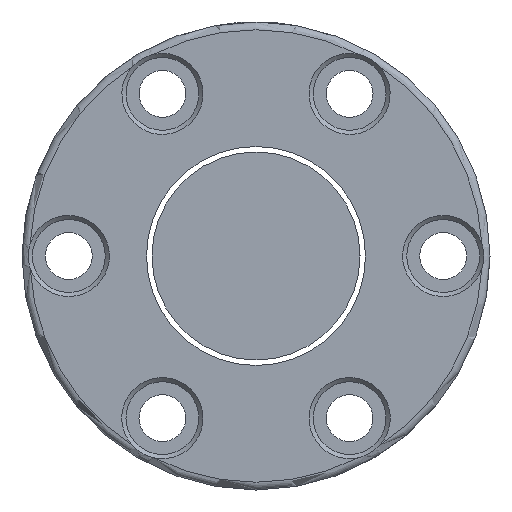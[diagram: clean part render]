
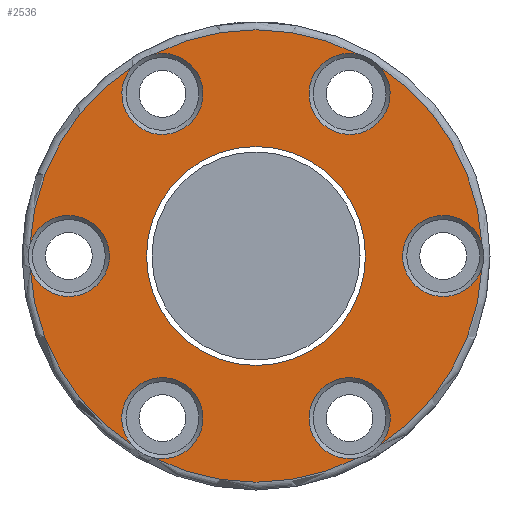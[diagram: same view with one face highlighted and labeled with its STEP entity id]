
A CAD part, left-side view. The second image highlights one B-rep face of the part: STEP entity #2536.
In plain terms, the highlighted planar face has unit normal (-1, 0, 0).
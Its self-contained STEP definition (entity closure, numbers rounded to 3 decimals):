
#8 = CARTESIAN_POINT ( 'NONE',  ( -55., -36., 0. ) ) ;
#18 = VERTEX_POINT ( 'NONE', #1796 ) ;
#32 = CARTESIAN_POINT ( 'NONE',  ( -55., -18., 31.177 ) ) ;
#128 = CARTESIAN_POINT ( 'NONE',  ( -55., 18., 31.177 ) ) ;
#150 = EDGE_CURVE ( 'NONE', #1428, #1343, #1046, .T. ) ;
#166 = CARTESIAN_POINT ( 'NONE',  ( -55., -23.757, -36.44 ) ) ;
#243 = CIRCLE ( 'NONE', #1708, 43.5 ) ;
#248 = CARTESIAN_POINT ( 'NONE',  ( -55., -18., -31.177 ) ) ;
#274 = CARTESIAN_POINT ( 'NONE',  ( -55., -19.679, -38.794 ) ) ;
#286 = EDGE_CURVE ( 'NONE', #1782, #2482, #2365, .T. ) ;
#288 = DIRECTION ( 'NONE',  ( -1., 0., 0. ) ) ;
#290 = AXIS2_PLACEMENT_3D ( 'NONE', #2092, #3088, #3056 ) ;
#302 = CIRCLE ( 'NONE', #1368, 7.8 ) ;
#371 = ORIENTED_EDGE ( 'NONE', *, *, #286, .T. ) ;
#390 = AXIS2_PLACEMENT_3D ( 'NONE', #32, #2724, #1000 ) ;
#399 = CARTESIAN_POINT ( 'NONE',  ( -55., -23.757, 36.44 ) ) ;
#400 = CARTESIAN_POINT ( 'NONE',  ( -55., -43.436, -2.354 ) ) ;
#419 = EDGE_CURVE ( 'NONE', #516, #1428, #2665, .T. ) ;
#510 = DIRECTION ( 'NONE',  ( -1., 0., 0. ) ) ;
#516 = VERTEX_POINT ( 'NONE', #3051 ) ;
#582 = CARTESIAN_POINT ( 'NONE',  ( -55., 0., 0. ) ) ;
#607 = DIRECTION ( 'NONE',  ( -1., 0., 0. ) ) ;
#684 = CARTESIAN_POINT ( 'NONE',  ( -55., 0., 0. ) ) ;
#716 = CARTESIAN_POINT ( 'NONE',  ( -55., 0., 0. ) ) ;
#748 = CIRCLE ( 'NONE', #2567, 43.5 ) ;
#754 = DIRECTION ( 'NONE',  ( 1., 0., 0. ) ) ;
#828 = DIRECTION ( 'NONE',  ( 0., -1., 0. ) ) ;
#833 = DIRECTION ( 'NONE',  ( -1., 0., 0. ) ) ;
#841 = AXIS2_PLACEMENT_3D ( 'NONE', #248, #754, #2178 ) ;
#848 = DIRECTION ( 'NONE',  ( 0., -1., 0. ) ) ;
#853 = DIRECTION ( 'NONE',  ( 0., -1., 0. ) ) ;
#865 = DIRECTION ( 'NONE',  ( 0., -1., 0. ) ) ;
#952 = AXIS2_PLACEMENT_3D ( 'NONE', #1745, #510, #1759 ) ;
#962 = VERTEX_POINT ( 'NONE', #2784 ) ;
#979 = VERTEX_POINT ( 'NONE', #400 ) ;
#1000 = DIRECTION ( 'NONE',  ( 0., -1., 0. ) ) ;
#1001 = ORIENTED_EDGE ( 'NONE', *, *, #150, .T. ) ;
#1012 = VERTEX_POINT ( 'NONE', #3015 ) ;
#1046 = CIRCLE ( 'NONE', #841, 7.8 ) ;
#1060 = EDGE_CURVE ( 'NONE', #962, #516, #1858, .T. ) ;
#1083 = CARTESIAN_POINT ( 'NONE',  ( -55., 18., -31.177 ) ) ;
#1087 = ORIENTED_EDGE ( 'NONE', *, *, #3069, .T. ) ;
#1099 = AXIS2_PLACEMENT_3D ( 'NONE', #1312, #833, #848 ) ;
#1127 = DIRECTION ( 'NONE',  ( 1., 0., 0. ) ) ;
#1227 = CARTESIAN_POINT ( 'NONE',  ( -55., -43.436, 2.354 ) ) ;
#1231 = ORIENTED_EDGE ( 'NONE', *, *, #2012, .T. ) ;
#1241 = CARTESIAN_POINT ( 'NONE',  ( -55., 19.679, 38.794 ) ) ;
#1255 = DIRECTION ( 'NONE',  ( -1., 0., 0. ) ) ;
#1273 = CARTESIAN_POINT ( 'NONE',  ( -55., 0., 0. ) ) ;
#1291 = EDGE_CURVE ( 'NONE', #1343, #979, #243, .T. ) ;
#1297 = CIRCLE ( 'NONE', #2672, 43.5 ) ;
#1312 = CARTESIAN_POINT ( 'NONE',  ( -55., 0., 0. ) ) ;
#1337 = CIRCLE ( 'NONE', #2145, 7.8 ) ;
#1343 = VERTEX_POINT ( 'NONE', #166 ) ;
#1368 = AXIS2_PLACEMENT_3D ( 'NONE', #8, #1491, #2224 ) ;
#1428 = VERTEX_POINT ( 'NONE', #274 ) ;
#1430 = EDGE_CURVE ( 'NONE', #2199, #1782, #2055, .T. ) ;
#1468 = ORIENTED_EDGE ( 'NONE', *, *, #3089, .T. ) ;
#1491 = DIRECTION ( 'NONE',  ( 1., 0., 0. ) ) ;
#1499 = VERTEX_POINT ( 'NONE', #1241 ) ;
#1542 = EDGE_CURVE ( 'NONE', #2482, #1499, #748, .T. ) ;
#1560 = ORIENTED_EDGE ( 'NONE', *, *, #419, .T. ) ;
#1567 = AXIS2_PLACEMENT_3D ( 'NONE', #1611, #607, #865 ) ;
#1587 = AXIS2_PLACEMENT_3D ( 'NONE', #716, #1255, #2415 ) ;
#1605 = DIRECTION ( 'NONE',  ( 1., 0., 0. ) ) ;
#1611 = CARTESIAN_POINT ( 'NONE',  ( -55., 45., 0. ) ) ;
#1626 = FACE_OUTER_BOUND ( 'NONE', #1654, .T. ) ;
#1639 = EDGE_CURVE ( 'NONE', #2632, #2632, #3023, .T. ) ;
#1654 = EDGE_LOOP ( 'NONE', ( #1231, #2214, #371, #1915, #3017, #1468, #1087, #2659, #1719, #1560, #1001, #2769 ) ) ;
#1678 = EDGE_LOOP ( 'NONE', ( #3003 ) ) ;
#1708 = AXIS2_PLACEMENT_3D ( 'NONE', #684, #2385, #2649 ) ;
#1719 = ORIENTED_EDGE ( 'NONE', *, *, #1060, .T. ) ;
#1745 = CARTESIAN_POINT ( 'NONE',  ( -55., 0., 0. ) ) ;
#1759 = DIRECTION ( 'NONE',  ( 0., -1., 0. ) ) ;
#1782 = VERTEX_POINT ( 'NONE', #399 ) ;
#1796 = CARTESIAN_POINT ( 'NONE',  ( -55., 43.436, -2.354 ) ) ;
#1858 = CIRCLE ( 'NONE', #1911, 7.8 ) ;
#1911 = AXIS2_PLACEMENT_3D ( 'NONE', #1083, #1605, #828 ) ;
#1913 = CARTESIAN_POINT ( 'NONE',  ( -55., -19.679, 38.794 ) ) ;
#1915 = ORIENTED_EDGE ( 'NONE', *, *, #1542, .T. ) ;
#2012 = EDGE_CURVE ( 'NONE', #979, #2199, #302, .T. ) ;
#2055 = CIRCLE ( 'NONE', #952, 43.5 ) ;
#2068 = PLANE ( 'NONE',  #1567 ) ;
#2092 = CARTESIAN_POINT ( 'NONE',  ( -55., 0., 0. ) ) ;
#2093 = DIRECTION ( 'NONE',  ( -1., 0., 0. ) ) ;
#2145 = AXIS2_PLACEMENT_3D ( 'NONE', #128, #2793, #853 ) ;
#2163 = EDGE_CURVE ( 'NONE', #18, #962, #3005, .T. ) ;
#2178 = DIRECTION ( 'NONE',  ( 0., -1., 0. ) ) ;
#2199 = VERTEX_POINT ( 'NONE', #1227 ) ;
#2214 = ORIENTED_EDGE ( 'NONE', *, *, #1430, .T. ) ;
#2224 = DIRECTION ( 'NONE',  ( 0., -1., 0. ) ) ;
#2241 = DIRECTION ( 'NONE',  ( 0., -1., 0. ) ) ;
#2365 = CIRCLE ( 'NONE', #390, 7.8 ) ;
#2385 = DIRECTION ( 'NONE',  ( -1., 0., 0. ) ) ;
#2397 = EDGE_CURVE ( 'NONE', #1499, #1012, #1337, .T. ) ;
#2410 = AXIS2_PLACEMENT_3D ( 'NONE', #2764, #1127, #2569 ) ;
#2415 = DIRECTION ( 'NONE',  ( 0., -1., 0. ) ) ;
#2482 = VERTEX_POINT ( 'NONE', #1913 ) ;
#2491 = CARTESIAN_POINT ( 'NONE',  ( -55., 43.436, 2.354 ) ) ;
#2536 = ADVANCED_FACE ( 'NONE', ( #1626, #2817 ), #2068, .T. ) ;
#2567 = AXIS2_PLACEMENT_3D ( 'NONE', #1273, #288, #2241 ) ;
#2569 = DIRECTION ( 'NONE',  ( 0., -1., 0. ) ) ;
#2613 = CARTESIAN_POINT ( 'NONE',  ( -55., 21.05, 0. ) ) ;
#2632 = VERTEX_POINT ( 'NONE', #2613 ) ;
#2649 = DIRECTION ( 'NONE',  ( 0., -1., 0. ) ) ;
#2659 = ORIENTED_EDGE ( 'NONE', *, *, #2163, .T. ) ;
#2665 = CIRCLE ( 'NONE', #1099, 43.5 ) ;
#2672 = AXIS2_PLACEMENT_3D ( 'NONE', #582, #2093, #3029 ) ;
#2724 = DIRECTION ( 'NONE',  ( 1., 0., 0. ) ) ;
#2764 = CARTESIAN_POINT ( 'NONE',  ( -55., 36., 0. ) ) ;
#2769 = ORIENTED_EDGE ( 'NONE', *, *, #1291, .T. ) ;
#2784 = CARTESIAN_POINT ( 'NONE',  ( -55., 23.757, -36.44 ) ) ;
#2793 = DIRECTION ( 'NONE',  ( 1., 0., 0. ) ) ;
#2817 = FACE_BOUND ( 'NONE', #1678, .T. ) ;
#2868 = CIRCLE ( 'NONE', #2410, 7.8 ) ;
#2897 = VERTEX_POINT ( 'NONE', #2491 ) ;
#3003 = ORIENTED_EDGE ( 'NONE', *, *, #1639, .T. ) ;
#3005 = CIRCLE ( 'NONE', #1587, 43.5 ) ;
#3015 = CARTESIAN_POINT ( 'NONE',  ( -55., 23.757, 36.44 ) ) ;
#3017 = ORIENTED_EDGE ( 'NONE', *, *, #2397, .T. ) ;
#3023 = CIRCLE ( 'NONE', #290, 21.05 ) ;
#3029 = DIRECTION ( 'NONE',  ( 0., -1., 0. ) ) ;
#3051 = CARTESIAN_POINT ( 'NONE',  ( -55., 19.679, -38.794 ) ) ;
#3056 = DIRECTION ( 'NONE',  ( 0., 1., 0. ) ) ;
#3069 = EDGE_CURVE ( 'NONE', #2897, #18, #2868, .T. ) ;
#3088 = DIRECTION ( 'NONE',  ( 1., 0., 0. ) ) ;
#3089 = EDGE_CURVE ( 'NONE', #1012, #2897, #1297, .T. ) ;
